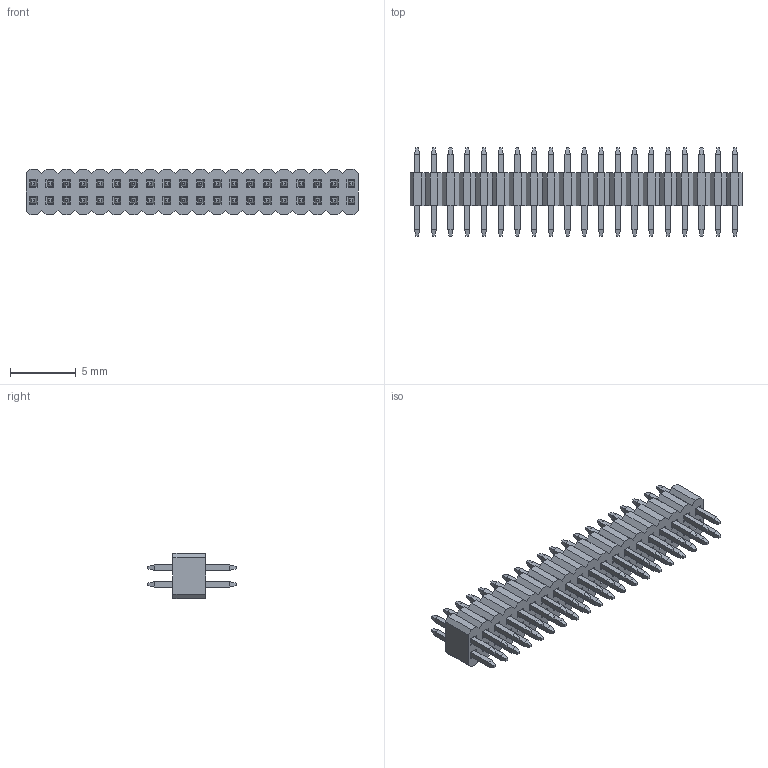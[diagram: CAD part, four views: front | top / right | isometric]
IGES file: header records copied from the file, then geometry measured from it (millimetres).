
Start section: SolidWorks IGES file using analytic representation for surfaces
Bounding box: 25.2 x 6.7 x 3.45 mm (x, y, z)
Surface area: 894.3 mm2 (no closed solid volume)
Topology: 0 solids, 0 shells, 1004 faces, 4572 edges, 4572 vertices
Faces by surface type: bspline 1004
